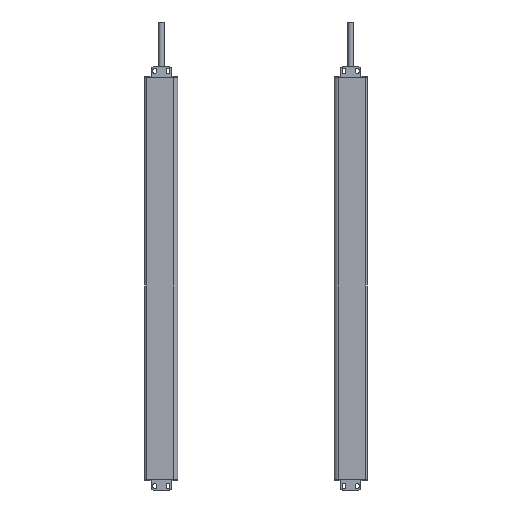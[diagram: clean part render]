
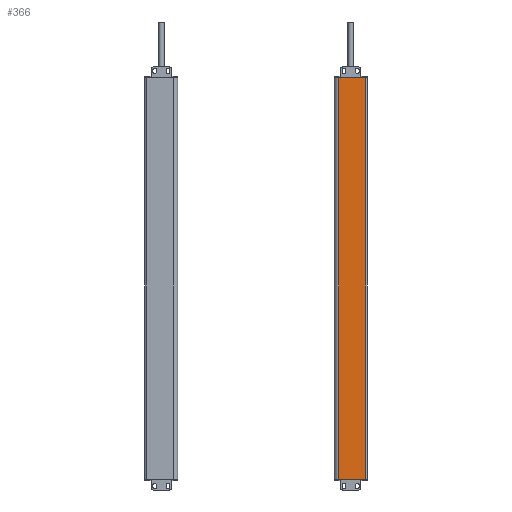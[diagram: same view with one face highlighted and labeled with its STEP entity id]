
A CAD part, front view. The second image highlights one B-rep face of the part: STEP entity #366.
In plain terms, the highlighted planar face has unit normal (0, -1, 0).
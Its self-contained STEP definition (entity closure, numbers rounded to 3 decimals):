
#123=PLANE('',#5869);
#366=ADVANCED_FACE('',(#797),#123,.T.);
#797=FACE_OUTER_BOUND('',#1073,.T.);
#1073=EDGE_LOOP('',(#1780,#1781,#1782,#1783));
#1780=ORIENTED_EDGE('',*,*,#3977,.T.);
#1781=ORIENTED_EDGE('',*,*,#3978,.F.);
#1782=ORIENTED_EDGE('',*,*,#3979,.F.);
#1783=ORIENTED_EDGE('',*,*,#3903,.T.);
#3351=VERTEX_POINT('',#8106);
#3352=VERTEX_POINT('',#8108);
#3421=VERTEX_POINT('',#8253);
#3422=VERTEX_POINT('',#8257);
#3903=EDGE_CURVE('',#3352,#3351,#4726,.T.);
#3977=EDGE_CURVE('',#3351,#3421,#4771,.T.);
#3978=EDGE_CURVE('',#3422,#3421,#4772,.T.);
#3979=EDGE_CURVE('',#3352,#3422,#4773,.T.);
#4726=LINE('',#8107,#5280);
#4771=LINE('',#8254,#5325);
#4772=LINE('',#8256,#5326);
#4773=LINE('',#8258,#5327);
#5280=VECTOR('',#6413,1.);
#5325=VECTOR('',#6522,1.);
#5326=VECTOR('',#6525,1.);
#5327=VECTOR('',#6526,1.);
#5869=AXIS2_PLACEMENT_3D('',#8259,#6527,#6528);
#6413=DIRECTION('',(1.,0.,0.));
#6522=DIRECTION('',(0.,0.,1.));
#6525=DIRECTION('',(1.,0.,0.));
#6526=DIRECTION('',(0.,0.,1.));
#6527=DIRECTION('',(0.,-1.,0.));
#6528=DIRECTION('',(-1.,0.,0.));
#8106=CARTESIAN_POINT('',(3.35,-1.3,-100.));
#8107=CARTESIAN_POINT('',(-21.15,-1.3,-100.));
#8108=CARTESIAN_POINT('',(-21.15,-1.3,-100.));
#8253=CARTESIAN_POINT('',(3.35,-1.3,262.));
#8254=CARTESIAN_POINT('',(3.35,-1.3,-100.));
#8256=CARTESIAN_POINT('',(-4122.897,-1.3,262.));
#8257=CARTESIAN_POINT('',(-21.15,-1.3,262.));
#8258=CARTESIAN_POINT('',(-21.15,-1.3,-100.));
#8259=CARTESIAN_POINT('',(-21.15,-1.3,-100.));
